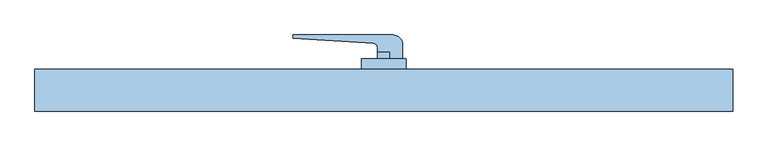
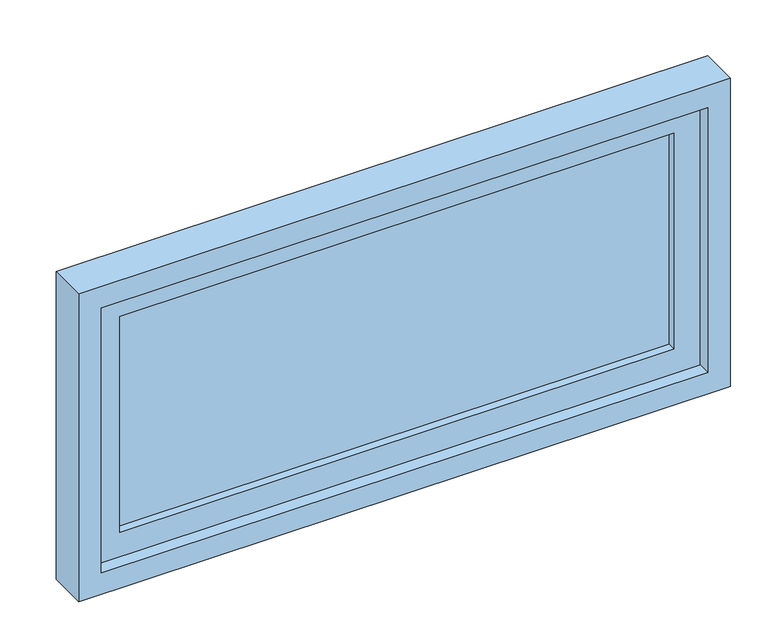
"""IFC4 building model written with IfcOpenShell, lengths in millimetres: window geometry, Janela Basculante - Vidro - Pivotante : Janela maxim-ar - 1 Painel."""

from ifc_helpers import new_model, si_unit, point, frame, frame_2d, origin, place, context, project, spatial, polyline, circle_curve, trimmed, segment, composite_curve, outline, extrude, source, transform, mapped, element, save


def window_d9182d47(model_context):
    return source(origin(), model_context, "Body", "SweptSolid", [
        extrude(outline(composite_curve([segment(polyline([(9.0, 100.0), (-9.0, 100.0), (-9.0, 105.9630874)]), True, "CONTINUOUS"), segment(trimmed(circle_curve(frame_2d((-15.0369126, 105.9630874)), 6.0369126), [point((-9.0, 105.9630874))], [point((-14.6705919, 111.9888756))], True, "CARTESIAN"), True, "CONTINUOUS"), segment(polyline([(-14.6705919, 111.9888756), (-130.0, 119.0), (-130.0, 124.0), (13.0, 124.0)]), True, "CONTINUOUS"), segment(trimmed(circle_curve(frame_2d((13.0, 110.0)), 14.0), [point((13.0, 124.0))], [point((27.0, 110.0))], False, "CARTESIAN"), True, "CONTINUOUS"), segment(polyline([(27.0, 110.0), (27.0, 90.0), (9.0, 90.0), (9.0, 100.0)]), True, "CONTINUOUS")], self_intersect=False)), frame((0.0, 0.0, 707.0), z_axis=(0.0, 0.0, 1.0), x_axis=(1.0, 0.0, 0.0)), (0.0, 0.0, 1.0), 16.0),
        extrude(outline(polyline([(723.0, 9.0), (723.0, -9.0), (703.0135985, -9.0), (685.0, -6.9842809), (685.0, 7.0348924), (703.0135985, 9.0), (723.0, 9.0)])), frame((0.0, 90.0, 0.0), z_axis=(0.0, 1.0, 0.0), x_axis=(0.0, 0.0, 1.0)), (0.0, 0.0, 1.0), 10.0),
        extrude(outline(polyline([(32.0, 90.0), (32.0, 75.0), (-32.0, 75.0), (-32.0, 90.0), (32.0, 90.0)])), frame((0.0, 0.0, 705.0), z_axis=(0.0, 0.0, 1.0), x_axis=(1.0, 0.0, 0.0)), (0.0, 0.0, 1.0), 20.0),
        extrude(outline(polyline([(425.0, 48.0), (-425.0, 48.0), (-425.0, 62.0), (425.0, 62.0), (425.0, 48.0)])), frame((0.0, 0.0, 725.0), z_axis=(0.0, 0.0, 1.0), x_axis=(1.0, 0.0, 0.0)), (0.0, 0.0, 1.0), 350.0),
        extrude(outline(polyline([(1115.0, -465.0), (685.0, -465.0), (685.0, 465.0), (1115.0, 465.0), (1115.0, -465.0)]), holes=[polyline([(725.0, -425.0), (1075.0, -425.0), (1075.0, 425.0), (725.0, 425.0), (725.0, -425.0)])]), frame((0.0, 35.0, 0.0), z_axis=(0.0, 1.0, 0.0), x_axis=(0.0, 0.0, 1.0)), (0.0, 0.0, 1.0), 40.0),
        extrude(outline(polyline([(1150.0, -500.0), (650.0, -500.0), (650.0, 500.0), (1150.0, 500.0), (1150.0, -500.0)]), holes=[polyline([(685.0, -465.0), (1115.0, -465.0), (1115.0, 465.0), (685.0, 465.0), (685.0, -465.0)])]), frame((0.0, 15.0, 0.0), z_axis=(0.0, 1.0, 0.0), x_axis=(0.0, 0.0, 1.0)), (0.0, 0.0, 1.0), 60.0),
    ])


if __name__ == "__main__":
    model = new_model("IFC4")
    model_context = context("Model", 3, world=origin())
    ifc_project = project(units=[si_unit("LENGTHUNIT", "METRE", prefix="MILLI")], contexts=[model_context])
    site = spatial("IfcSite", under=ifc_project)
    building = spatial("IfcBuilding", under=site)
    placement = place(None, origin())
    window_shape = window_d9182d47(model_context)
    element("IfcWindow", 1, ObjectType="Janela Basculante - Vidro - Pivotante : Janela maxim-ar - 1 Painel", at=placement, inside=building, context=model_context, shape_type="MappedRepresentation", body=[
        mapped(window_shape, transform((0.0, 0.0, 0.0), x_axis=(1.0, 0.0, 0.0), y_axis=(0.0, 1.0, 0.0), z_axis=(0.0, 0.0, 1.0))),
    ])
    save(model, "model.ifc")
